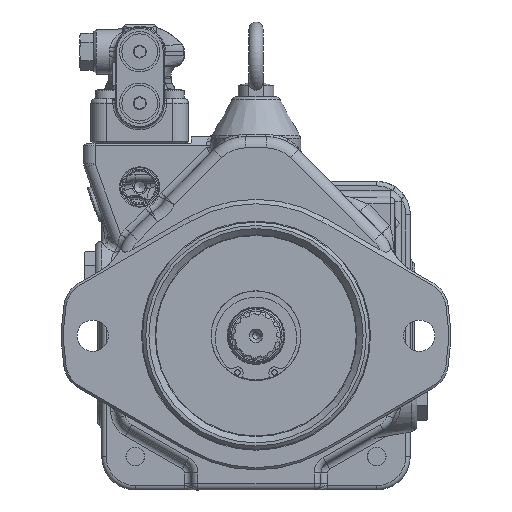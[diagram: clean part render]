
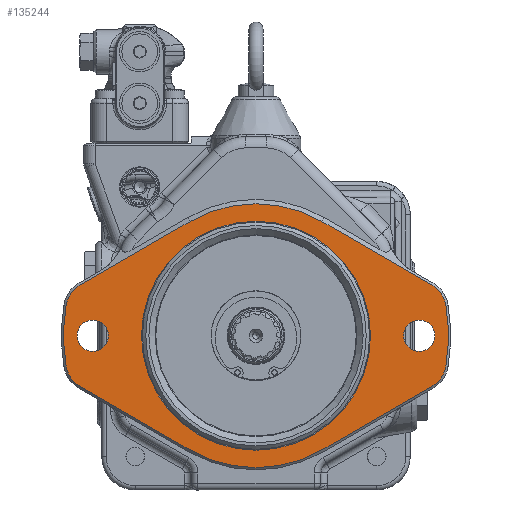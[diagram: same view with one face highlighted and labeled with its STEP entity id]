
A CAD part, front view. The second image highlights one B-rep face of the part: STEP entity #135244.
In plain terms, the highlighted planar face has unit normal (0, -1, 0).
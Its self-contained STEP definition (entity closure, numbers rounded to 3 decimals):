
#9045=FACE_BOUND('',#22609,.T.);
#9046=FACE_BOUND('',#22610,.T.);
#9047=FACE_BOUND('',#22611,.T.);
#9545=PLANE('',#142822);
#15604=FACE_OUTER_BOUND('',#22608,.T.);
#22608=EDGE_LOOP('',(#99129,#99130,#99131,#99132,#99133,#99134,#99135,#99136,
#99137,#99138,#99139,#99140));
#22609=EDGE_LOOP('',(#99141));
#22610=EDGE_LOOP('',(#99142));
#22611=EDGE_LOOP('',(#99143));
#29698=LINE('',#194711,#46016);
#29699=LINE('',#194715,#46017);
#29700=LINE('',#194723,#46018);
#29701=LINE('',#194727,#46019);
#46016=VECTOR('',#153126,10.);
#46017=VECTOR('',#153129,10.);
#46018=VECTOR('',#153136,10.);
#46019=VECTOR('',#153139,10.);
#62148=CIRCLE('',#142710,7.);
#62150=CIRCLE('',#142713,7.);
#62204=CIRCLE('',#142817,51.2);
#62208=CIRCLE('',#142823,13.);
#62209=CIRCLE('',#142824,59.);
#62210=CIRCLE('',#142825,13.);
#62211=CIRCLE('',#142826,86.);
#62212=CIRCLE('',#142827,13.);
#62213=CIRCLE('',#142828,59.);
#62214=CIRCLE('',#142829,13.);
#62215=CIRCLE('',#142830,86.);
#64164=VERTEX_POINT('',#194308);
#64166=VERTEX_POINT('',#194314);
#64256=VERTEX_POINT('',#194696);
#64259=VERTEX_POINT('',#194707);
#64260=VERTEX_POINT('',#194708);
#64261=VERTEX_POINT('',#194710);
#64262=VERTEX_POINT('',#194712);
#64263=VERTEX_POINT('',#194714);
#64264=VERTEX_POINT('',#194716);
#64265=VERTEX_POINT('',#194718);
#64266=VERTEX_POINT('',#194720);
#64267=VERTEX_POINT('',#194722);
#64268=VERTEX_POINT('',#194724);
#64269=VERTEX_POINT('',#194726);
#64270=VERTEX_POINT('',#194728);
#77620=EDGE_CURVE('',#64164,#64164,#62148,.T.);
#77623=EDGE_CURVE('',#64166,#64166,#62150,.T.);
#77744=EDGE_CURVE('',#64256,#64256,#62204,.T.);
#77749=EDGE_CURVE('',#64259,#64260,#62208,.T.);
#77750=EDGE_CURVE('',#64261,#64259,#29698,.T.);
#77751=EDGE_CURVE('',#64262,#64261,#62209,.T.);
#77752=EDGE_CURVE('',#64263,#64262,#29699,.T.);
#77753=EDGE_CURVE('',#64264,#64263,#62210,.T.);
#77754=EDGE_CURVE('',#64265,#64264,#62211,.T.);
#77755=EDGE_CURVE('',#64266,#64265,#62212,.T.);
#77756=EDGE_CURVE('',#64267,#64266,#29700,.T.);
#77757=EDGE_CURVE('',#64268,#64267,#62213,.T.);
#77758=EDGE_CURVE('',#64269,#64268,#29701,.T.);
#77759=EDGE_CURVE('',#64270,#64269,#62214,.T.);
#77760=EDGE_CURVE('',#64260,#64270,#62215,.T.);
#99129=ORIENTED_EDGE('',*,*,#77749,.F.);
#99130=ORIENTED_EDGE('',*,*,#77750,.F.);
#99131=ORIENTED_EDGE('',*,*,#77751,.F.);
#99132=ORIENTED_EDGE('',*,*,#77752,.F.);
#99133=ORIENTED_EDGE('',*,*,#77753,.F.);
#99134=ORIENTED_EDGE('',*,*,#77754,.F.);
#99135=ORIENTED_EDGE('',*,*,#77755,.F.);
#99136=ORIENTED_EDGE('',*,*,#77756,.F.);
#99137=ORIENTED_EDGE('',*,*,#77757,.F.);
#99138=ORIENTED_EDGE('',*,*,#77758,.F.);
#99139=ORIENTED_EDGE('',*,*,#77759,.F.);
#99140=ORIENTED_EDGE('',*,*,#77760,.F.);
#99141=ORIENTED_EDGE('',*,*,#77620,.T.);
#99142=ORIENTED_EDGE('',*,*,#77623,.T.);
#99143=ORIENTED_EDGE('',*,*,#77744,.F.);
#135244=ADVANCED_FACE('',(#15604,#9045,#9046,#9047),#9545,.F.);
#142710=AXIS2_PLACEMENT_3D('',#194309,#152862,#152863);
#142713=AXIS2_PLACEMENT_3D('',#194315,#152869,#152870);
#142817=AXIS2_PLACEMENT_3D('',#194698,#153111,#153112);
#142822=AXIS2_PLACEMENT_3D('',#194706,#153122,#153123);
#142823=AXIS2_PLACEMENT_3D('',#194709,#153124,#153125);
#142824=AXIS2_PLACEMENT_3D('',#194713,#153127,#153128);
#142825=AXIS2_PLACEMENT_3D('',#194717,#153130,#153131);
#142826=AXIS2_PLACEMENT_3D('',#194719,#153132,#153133);
#142827=AXIS2_PLACEMENT_3D('',#194721,#153134,#153135);
#142828=AXIS2_PLACEMENT_3D('',#194725,#153137,#153138);
#142829=AXIS2_PLACEMENT_3D('',#194729,#153140,#153141);
#142830=AXIS2_PLACEMENT_3D('',#194730,#153142,#153143);
#152862=DIRECTION('center_axis',(0.,1.,0.));
#152863=DIRECTION('ref_axis',(1.,0.,0.));
#152869=DIRECTION('center_axis',(0.,1.,0.));
#152870=DIRECTION('ref_axis',(1.,0.,0.));
#153111=DIRECTION('center_axis',(0.,-1.,0.));
#153112=DIRECTION('ref_axis',(0.,0.,-1.));
#153122=DIRECTION('center_axis',(0.,1.,0.));
#153123=DIRECTION('ref_axis',(-1.,0.,0.));
#153124=DIRECTION('center_axis',(0.,1.,0.));
#153125=DIRECTION('ref_axis',(0.988,0.,0.157));
#153126=DIRECTION('',(-0.866,0.,0.5));
#153127=DIRECTION('center_axis',(0.,1.,0.));
#153128=DIRECTION('ref_axis',(0.5,0.,0.866));
#153129=DIRECTION('',(-0.866,0.,-0.5));
#153130=DIRECTION('center_axis',(0.,1.,0.));
#153131=DIRECTION('ref_axis',(-0.5,0.,0.866));
#153132=DIRECTION('center_axis',(0.,1.,0.));
#153133=DIRECTION('ref_axis',(-0.988,0.,0.157));
#153134=DIRECTION('center_axis',(0.,1.,0.));
#153135=DIRECTION('ref_axis',(-0.988,0.,-0.157));
#153136=DIRECTION('',(0.866,0.,-0.5));
#153137=DIRECTION('center_axis',(0.,1.,0.));
#153138=DIRECTION('ref_axis',(-0.5,0.,-0.866));
#153139=DIRECTION('',(0.866,0.,0.5));
#153140=DIRECTION('center_axis',(0.,1.,0.));
#153141=DIRECTION('ref_axis',(0.5,0.,-0.866));
#153142=DIRECTION('center_axis',(0.,1.,0.));
#153143=DIRECTION('ref_axis',(0.988,0.,-0.157));
#194308=CARTESIAN_POINT('',(-80.,-132.,0.));
#194309=CARTESIAN_POINT('Origin',(-73.,-132.,0.));
#194314=CARTESIAN_POINT('',(66.,-132.,0.));
#194315=CARTESIAN_POINT('Origin',(73.,-132.,0.));
#194696=CARTESIAN_POINT('',(51.2,-132.,0.));
#194698=CARTESIAN_POINT('Origin',(0.,-132.,0.));
#194706=CARTESIAN_POINT('Origin',(0.,-132.,50.8));
#194707=CARTESIAN_POINT('',(-78.589,-132.,-22.754));
#194708=CARTESIAN_POINT('',(-84.927,-132.,-13.543));
#194709=CARTESIAN_POINT('Origin',(-72.089,-132.,-11.496));
#194710=CARTESIAN_POINT('',(-29.5,-132.,-51.095));
#194711=CARTESIAN_POINT('',(-40.499,-132.,-44.745));
#194712=CARTESIAN_POINT('',(29.5,-132.,-51.095));
#194713=CARTESIAN_POINT('Origin',(0.,-132.,0.));
#194714=CARTESIAN_POINT('',(78.589,-132.,-22.754));
#194715=CARTESIAN_POINT('',(65.043,-132.,-30.575));
#194716=CARTESIAN_POINT('',(84.927,-132.,-13.543));
#194717=CARTESIAN_POINT('Origin',(72.089,-132.,-11.496));
#194718=CARTESIAN_POINT('',(84.927,-132.,13.543));
#194719=CARTESIAN_POINT('Origin',(0.,-132.,0.));
#194720=CARTESIAN_POINT('',(78.589,-132.,22.754));
#194721=CARTESIAN_POINT('Origin',(72.089,-132.,11.496));
#194722=CARTESIAN_POINT('',(29.5,-132.,51.095));
#194723=CARTESIAN_POINT('',(18.501,-132.,57.445));
#194724=CARTESIAN_POINT('',(-29.5,-132.,51.095));
#194725=CARTESIAN_POINT('Origin',(0.,-132.,0.));
#194726=CARTESIAN_POINT('',(-78.589,-132.,22.754));
#194727=CARTESIAN_POINT('',(-43.046,-132.,43.275));
#194728=CARTESIAN_POINT('',(-84.927,-132.,13.543));
#194729=CARTESIAN_POINT('Origin',(-72.089,-132.,11.496));
#194730=CARTESIAN_POINT('Origin',(0.,-132.,0.));
